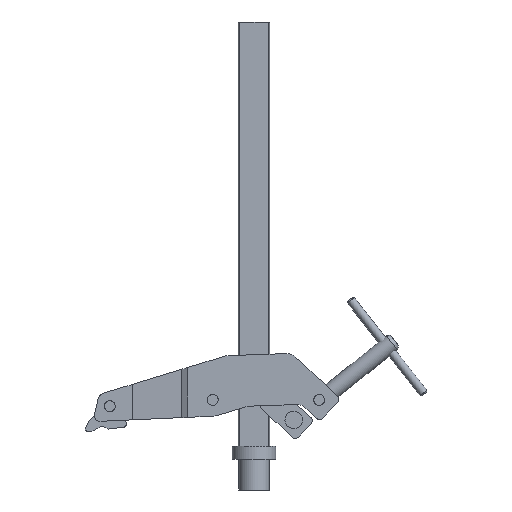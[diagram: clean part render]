
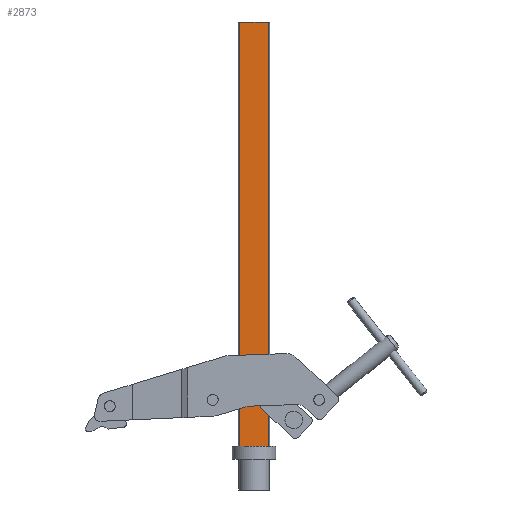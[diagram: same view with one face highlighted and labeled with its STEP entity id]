
A CAD part, front view. The second image highlights one B-rep face of the part: STEP entity #2873.
In plain terms, the highlighted free-form (B-spline) face has degree [1, 1] with [2, 2] control points.
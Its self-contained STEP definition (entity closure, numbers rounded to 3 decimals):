
#2602=CARTESIAN_POINT('',(9.602,-5.366,6.));
#2603=VERTEX_POINT('',#2602);
#2604=CARTESIAN_POINT('',(-9.602,-5.366,6.));
#2605=VERTEX_POINT('',#2604);
#2614=CARTESIAN_POINT('',(-13.265,-5.366,6.));
#2615=VERTEX_POINT('',#2614);
#2616=CARTESIAN_POINT('',(-13.265,-5.366,6.));
#2617=CARTESIAN_POINT('',(-9.602,-5.366,6.));
#2618=B_SPLINE_CURVE_WITH_KNOTS('',1,(#2616,#2617),.POLYLINE_FORM.,.F.,.U.,(2,2),(0.,0.138),.UNSPECIFIED.);
#2619=EDGE_CURVE('',#2615,#2605,#2618,.T.);
#2653=CARTESIAN_POINT('',(13.265,-5.366,6.));
#2654=VERTEX_POINT('',#2653);
#2661=CARTESIAN_POINT('',(9.602,-5.366,6.));
#2662=CARTESIAN_POINT('',(13.265,-5.366,6.));
#2663=B_SPLINE_CURVE_WITH_KNOTS('',1,(#2661,#2662),.POLYLINE_FORM.,.F.,.U.,(2,2),(0.862,1.),.UNSPECIFIED.);
#2664=EDGE_CURVE('',#2603,#2654,#2663,.T.);
#2840=CARTESIAN_POINT('',(-13.265,-5.366,6.));
#2841=CARTESIAN_POINT('',(-13.265,-5.366,395.));
#2842=CARTESIAN_POINT('',(13.265,-5.366,6.));
#2843=CARTESIAN_POINT('',(13.265,-5.366,395.));
#2844=B_SPLINE_SURFACE_WITH_KNOTS('',1,1,((#2840,#2841),(#2842,#2843)),.PLANE_SURF.,.F.,.F.,.U.,(2,2),(2,2),(0.,1.),(0.,1.),.UNSPECIFIED.);
#2845=ORIENTED_EDGE('',*,*,#2619,.T.);
#2846=CARTESIAN_POINT('',(-9.602,-5.366,6.));
#2847=CARTESIAN_POINT('',(9.602,-5.366,6.));
#2848=B_SPLINE_CURVE_WITH_KNOTS('',1,(#2846,#2847),.POLYLINE_FORM.,.F.,.U.,(2,2),(0.138,0.862),.UNSPECIFIED.);
#2849=EDGE_CURVE('',#2605,#2603,#2848,.T.);
#2850=ORIENTED_EDGE('',*,*,#2849,.T.);
#2851=ORIENTED_EDGE('',*,*,#2664,.T.);
#2852=CARTESIAN_POINT('',(13.265,-5.366,395.));
#2853=VERTEX_POINT('',#2852);
#2854=CARTESIAN_POINT('',(13.265,-5.366,6.));
#2855=CARTESIAN_POINT('',(13.265,-5.366,395.));
#2856=B_SPLINE_CURVE_WITH_KNOTS('',1,(#2854,#2855),.POLYLINE_FORM.,.F.,.U.,(2,2),(0.,1.),.UNSPECIFIED.);
#2857=EDGE_CURVE('',#2654,#2853,#2856,.T.);
#2858=ORIENTED_EDGE('',*,*,#2857,.T.);
#2859=CARTESIAN_POINT('',(-13.265,-5.366,395.));
#2860=VERTEX_POINT('',#2859);
#2861=CARTESIAN_POINT('',(-13.265,-5.366,395.));
#2862=CARTESIAN_POINT('',(13.265,-5.366,395.));
#2863=B_SPLINE_CURVE_WITH_KNOTS('',1,(#2861,#2862),.POLYLINE_FORM.,.F.,.U.,(2,2),(0.,1.),.UNSPECIFIED.);
#2864=EDGE_CURVE('',#2860,#2853,#2863,.T.);
#2865=ORIENTED_EDGE('',*,*,#2864,.F.);
#2866=CARTESIAN_POINT('',(-13.265,-5.366,6.));
#2867=CARTESIAN_POINT('',(-13.265,-5.366,395.));
#2868=B_SPLINE_CURVE_WITH_KNOTS('',1,(#2866,#2867),.POLYLINE_FORM.,.F.,.U.,(2,2),(0.,1.),.UNSPECIFIED.);
#2869=EDGE_CURVE('',#2615,#2860,#2868,.T.);
#2870=ORIENTED_EDGE('',*,*,#2869,.F.);
#2871=EDGE_LOOP('',(#2845,#2850,#2851,#2858,#2865,#2870));
#2872=FACE_OUTER_BOUND('',#2871,.T.);
#2873=ADVANCED_FACE('',(#2872),#2844,.T.);
